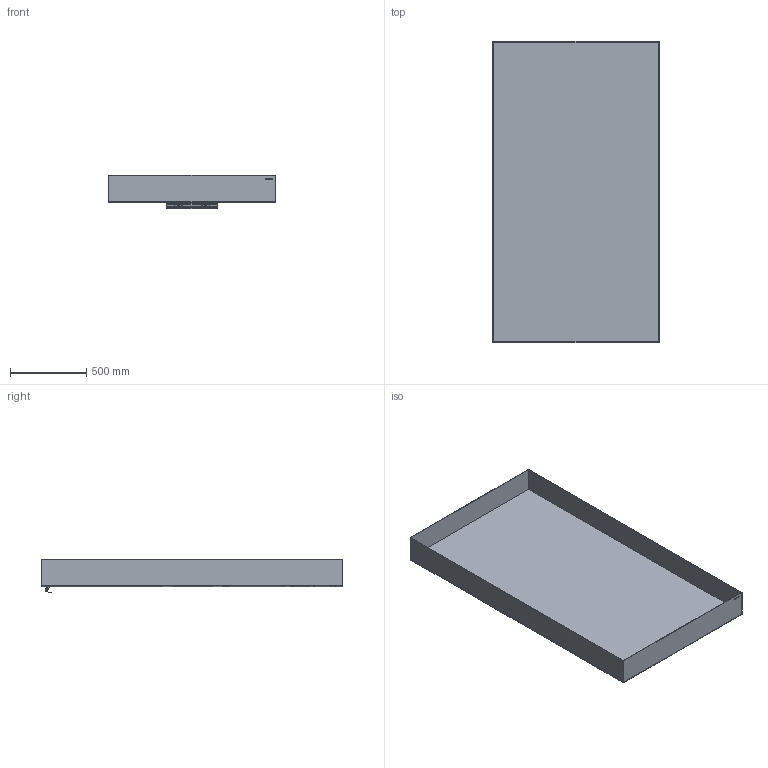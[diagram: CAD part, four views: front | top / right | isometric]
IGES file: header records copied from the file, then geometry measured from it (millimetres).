
Start section: SolidWorks IGES file using analytic representation for surfaces
Global section: file name: C:\VaultDeCastelli\Progetti\DC\PESO LEGGERO PRODOTTI\Ale\DeCastelli-3D-Frame 110.igs; native system: SolidWorks 2022; preprocessor: SolidWorks 2022; author: AlessandroP; date: 240726.104116; units: millimetre
Bounding box: 1100 x 1980 x 217.64 mm (x, y, z)
Surface area: 6861653.7 mm2 (no closed solid volume)
Topology: 0 solids, 0 shells, 131 faces, 2509 edges, 2509 vertices
Faces by surface type: bspline 82, revolution 49
